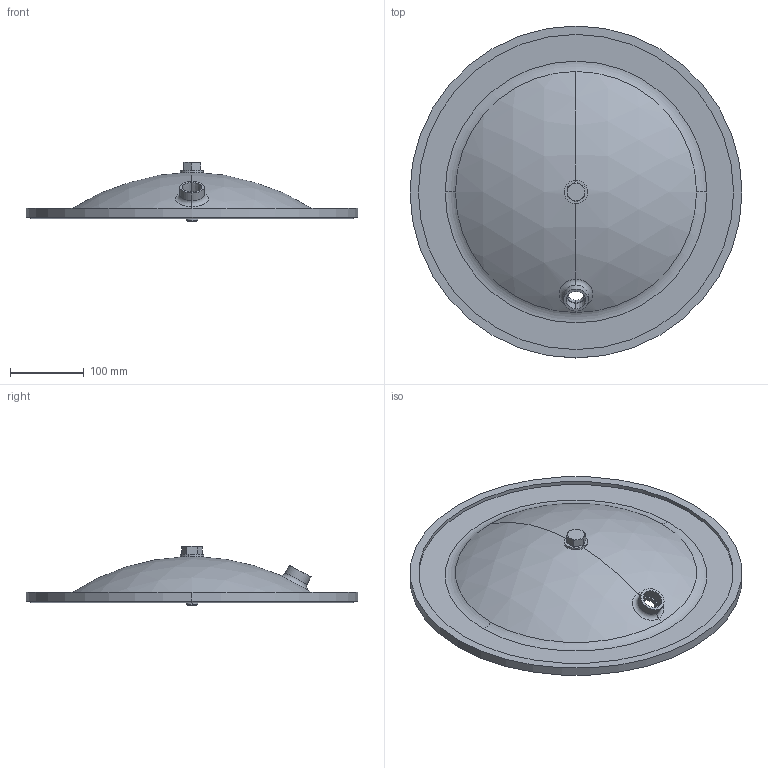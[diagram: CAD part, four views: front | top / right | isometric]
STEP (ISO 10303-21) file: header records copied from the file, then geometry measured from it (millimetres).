
FILE_DESCRIPTION (( 'STEP AP203' ), '1' );
FILE_NAME ('REC18KS.STEP', '2015-01-07T19:55:24', ( '' ), ( '' ), 'SwSTEP 2.0', 'SolidWorks 2014', '' );
FILE_SCHEMA (( 'CONFIG_CONTROL_DESIGN' ));
Length unit declared in the file: inch
Products named in the file (1): REC18KS
Bounding box: 449.58 x 449.58 x 81.13 mm (x, y, z)
Volume: 822427.1 mm3; surface area: 451848.1 mm2
Topology: 4 solids, 4 shells, 71 faces, 156 edges, 98 vertices
Faces by surface type: cylinder 26, plane 21, torus 10, cone 10, sphere 4
Entity records: 2129 total; most frequent: CARTESIAN_POINT 402, DIRECTION 390, ORIENTED_EDGE 312, AXIS2_PLACEMENT_3D 174, EDGE_CURVE 156, CIRCLE 102, VERTEX_POINT 98, EDGE_LOOP 84
